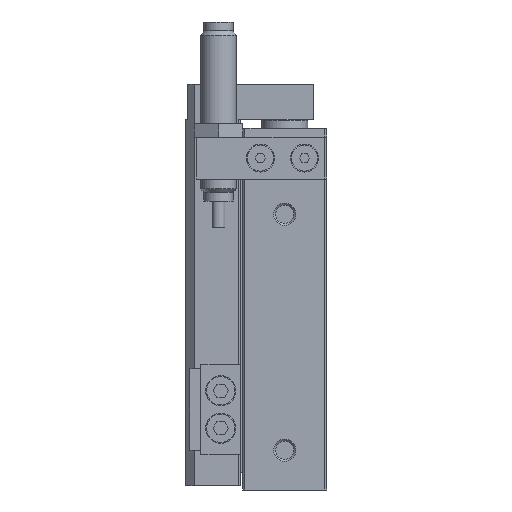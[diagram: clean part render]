
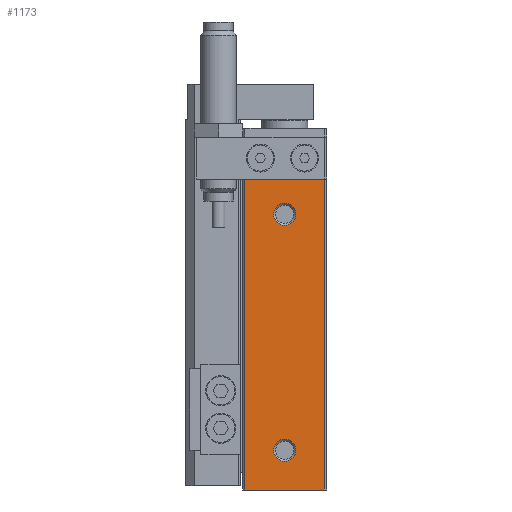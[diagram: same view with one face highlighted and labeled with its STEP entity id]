
A CAD part, left-side view. The second image highlights one B-rep face of the part: STEP entity #1173.
In plain terms, the highlighted planar face has unit normal (-1, 0, 0).
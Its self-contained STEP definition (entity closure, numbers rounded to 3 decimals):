
#1173 = ADVANCED_FACE( '', ( #2617, #2618, #2619 ), #2620, .T. );
#2617 = FACE_BOUND( '', #4340, .T. );
#2618 = FACE_BOUND( '', #4341, .T. );
#2619 = FACE_OUTER_BOUND( '', #4342, .T. );
#2620 = PLANE( '', #4343 );
#4340 = EDGE_LOOP( '', ( #7431 ) );
#4341 = EDGE_LOOP( '', ( #7432 ) );
#4342 = EDGE_LOOP( '', ( #7433, #7434, #7435, #7436 ) );
#4343 = AXIS2_PLACEMENT_3D( '', #7437, #7438, #7439 );
#7431 = ORIENTED_EDGE( '', *, *, #10439, .T. );
#7432 = ORIENTED_EDGE( '', *, *, #10295, .T. );
#7433 = ORIENTED_EDGE( '', *, *, #10214, .T. );
#7434 = ORIENTED_EDGE( '', *, *, #9970, .F. );
#7435 = ORIENTED_EDGE( '', *, *, #10440, .F. );
#7436 = ORIENTED_EDGE( '', *, *, #9491, .T. );
#7437 = CARTESIAN_POINT( '', ( -25., 18.5, -82. ) );
#7438 = DIRECTION( '', ( -1., 0., 0. ) );
#7439 = DIRECTION( '', ( 0., 0., 1. ) );
#9491 = EDGE_CURVE( '', #11226, #11277, #11279, .T. );
#9970 = EDGE_CURVE( '', #12057, #12058, #12059, .T. );
#10214 = EDGE_CURVE( '', #11277, #12058, #12430, .T. );
#10295 = EDGE_CURVE( '', #12542, #12542, #12543, .T. );
#10439 = EDGE_CURVE( '', #12746, #12746, #12747, .T. );
#10440 = EDGE_CURVE( '', #11226, #12057, #12748, .T. );
#11226 = VERTEX_POINT( '', #13752 );
#11277 = VERTEX_POINT( '', #13828 );
#11279 = LINE( '', #13831, #13832 );
#12057 = VERTEX_POINT( '', #14894 );
#12058 = VERTEX_POINT( '', #14895 );
#12059 = LINE( '', #14896, #14897 );
#12430 = LINE( '', #15396, #15397 );
#12542 = VERTEX_POINT( '', #15550 );
#12543 = CIRCLE( '', #15551, 2.5 );
#12746 = VERTEX_POINT( '', #15834 );
#12747 = CIRCLE( '', #15835, 2.5 );
#12748 = LINE( '', #15836, #15837 );
#13752 = CARTESIAN_POINT( '', ( -25., 18.5, -82. ) );
#13828 = CARTESIAN_POINT( '', ( -25., 0.5, -82. ) );
#13831 = CARTESIAN_POINT( '', ( -25., 18.5, -82. ) );
#13832 = VECTOR( '', #16735, 1000. );
#14894 = CARTESIAN_POINT( '', ( -25., 18.5, -11.5 ) );
#14895 = CARTESIAN_POINT( '', ( -25., 0.5, -11.5 ) );
#14896 = CARTESIAN_POINT( '', ( -25., 19., -11.5 ) );
#14897 = VECTOR( '', #17266, 1000. );
#15396 = CARTESIAN_POINT( '', ( -25., 0.5, -82. ) );
#15397 = VECTOR( '', #17530, 1000. );
#15550 = CARTESIAN_POINT( '', ( -25., 9.5, -22. ) );
#15551 = AXIS2_PLACEMENT_3D( '', #17608, #17609, #17610 );
#15834 = CARTESIAN_POINT( '', ( -25., 9.5, -75.5 ) );
#15835 = AXIS2_PLACEMENT_3D( '', #17751, #17752, #17753 );
#15836 = CARTESIAN_POINT( '', ( -25., 18.5, -82. ) );
#15837 = VECTOR( '', #17754, 1000. );
#16735 = DIRECTION( '', ( 0., -1., 0. ) );
#17266 = DIRECTION( '', ( 0., -1., 0. ) );
#17530 = DIRECTION( '', ( 0., 0., 1. ) );
#17608 = CARTESIAN_POINT( '', ( -25., 9.5, -19.5 ) );
#17609 = DIRECTION( '', ( 1., 0., 0. ) );
#17610 = DIRECTION( '', ( 0., 0., -1. ) );
#17751 = CARTESIAN_POINT( '', ( -25., 9.5, -73. ) );
#17752 = DIRECTION( '', ( 1., 0., 0. ) );
#17753 = DIRECTION( '', ( 0., 0., -1. ) );
#17754 = DIRECTION( '', ( 0., 0., 1. ) );
